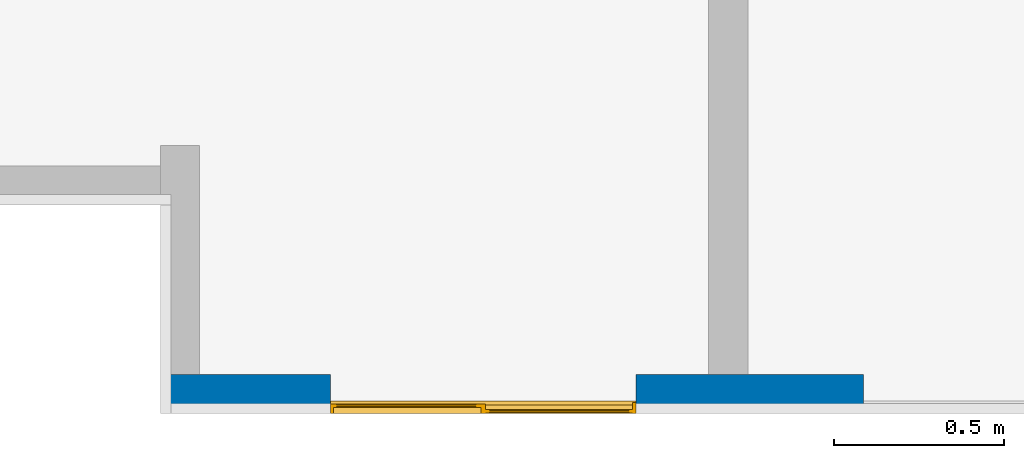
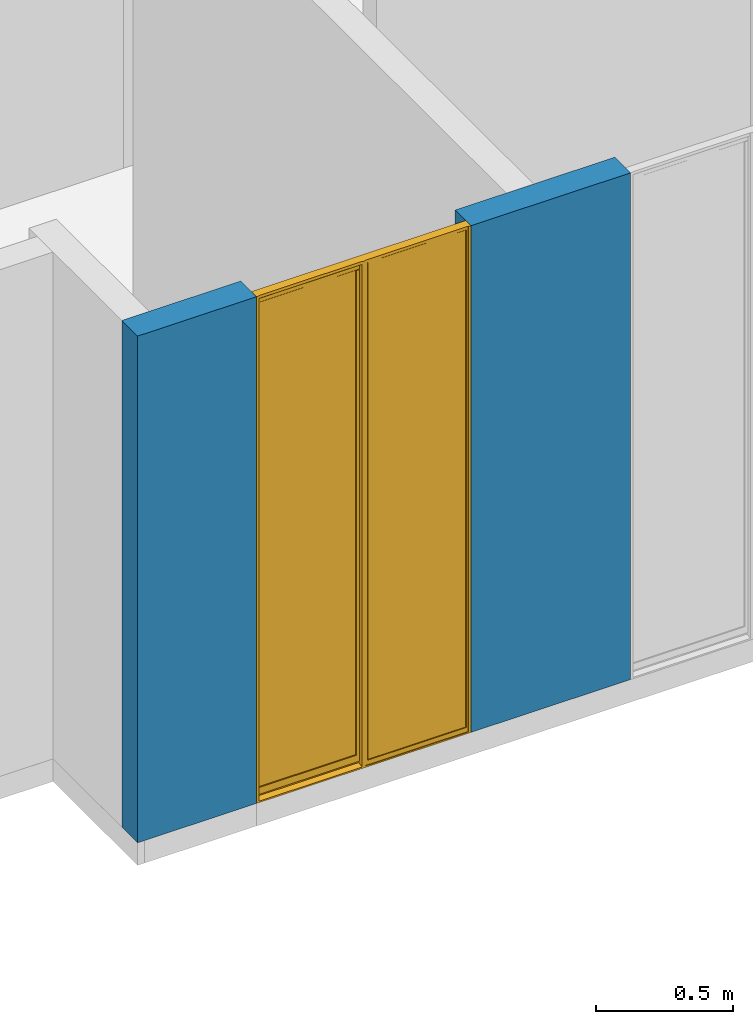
# One storey, part 11 of 48: 1 wall, 1 window, 2 openings.
"""IFC4 building model written with IfcOpenShell, lengths in metres."""

from ifc_helpers import new_model, entity, si_unit, converted_unit, derived_unit, direction, frame, origin, place, context, subcontext, project, spatial, indexed_curve, outline, extrude, polygons, source, transform, mapped, material, constituent, constituent_set, type_object, type_shapes, element, fill, save


model = new_model("IFC4")

# Units and contexts
model_context = context("Model", 3, precision=1e-05, world=origin(), true_north=direction((6.123031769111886e-17, 1.0)))
body_context = subcontext(model_context, "Body", "Model", "MODEL_VIEW")
ifc_project = project(units=[si_unit("LENGTHUNIT", "METRE"), si_unit("AREAUNIT", "SQUARE_METRE"), si_unit("VOLUMEUNIT", "CUBIC_METRE"), converted_unit("PLANEANGLEUNIT", "DEGREE", entity("IfcRatioMeasure", 0.017453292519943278), si_unit("PLANEANGLEUNIT", "RADIAN"), dimensions=[0, 0, 0, 0, 0, 0, 0]), si_unit("MASSUNIT", "GRAM", prefix="KILO"), derived_unit("MASSDENSITYUNIT", [(si_unit("MASSUNIT", "GRAM", prefix="KILO"), 1), (si_unit("LENGTHUNIT", "METRE"), -3)]), derived_unit("IONCONCENTRATIONUNIT", [(si_unit("MASSUNIT", "GRAM", prefix="KILO"), 1), (si_unit("LENGTHUNIT", "METRE"), -3)]), derived_unit("MOMENTOFINERTIAUNIT", [(si_unit("LENGTHUNIT", "METRE"), 4)]), si_unit("TIMEUNIT", "SECOND"), si_unit("FREQUENCYUNIT", "HERTZ"), si_unit("THERMODYNAMICTEMPERATUREUNIT", "DEGREE_CELSIUS"), derived_unit("THERMALTRANSMITTANCEUNIT", [(si_unit("MASSUNIT", "GRAM", prefix="KILO"), 1), (si_unit("THERMODYNAMICTEMPERATUREUNIT", "KELVIN"), -1), (si_unit("TIMEUNIT", "SECOND"), -3)]), derived_unit("THERMALCONDUCTANCEUNIT", [(si_unit("MASSUNIT", "GRAM", prefix="KILO"), 1), (si_unit("THERMODYNAMICTEMPERATUREUNIT", "KELVIN"), -1), (si_unit("TIMEUNIT", "SECOND"), -3), (si_unit("LENGTHUNIT", "METRE"), 1)]), derived_unit("VOLUMETRICFLOWRATEUNIT", [(si_unit("LENGTHUNIT", "METRE"), 3), (si_unit("TIMEUNIT", "SECOND"), -1)]), derived_unit("MASSFLOWRATEUNIT", [(si_unit("MASSUNIT", "GRAM", prefix="KILO"), 1), (si_unit("TIMEUNIT", "SECOND"), -1)]), derived_unit("ROTATIONALFREQUENCYUNIT", [(si_unit("TIMEUNIT", "SECOND"), -1)]), si_unit("ELECTRICCURRENTUNIT", "AMPERE"), si_unit("ELECTRICVOLTAGEUNIT", "VOLT"), si_unit("POWERUNIT", "WATT"), si_unit("FORCEUNIT", "NEWTON", prefix="KILO"), si_unit("ILLUMINANCEUNIT", "LUX"), si_unit("LUMINOUSFLUXUNIT", "LUMEN"), si_unit("LUMINOUSINTENSITYUNIT", "CANDELA"), derived_unit("USERDEFINED", [(si_unit("MASSUNIT", "GRAM", prefix="KILO"), -1), (si_unit("LENGTHUNIT", "METRE"), -2), (si_unit("TIMEUNIT", "SECOND"), 3), (si_unit("LUMINOUSFLUXUNIT", "LUMEN"), 1)]), derived_unit("USERDEFINED", [(si_unit("MASSUNIT", "GRAM", prefix="KILO"), 1), (si_unit("TIMEUNIT", "SECOND"), -3), (si_unit("LENGTHUNIT", "METRE"), 3), (si_unit("ELECTRICCURRENTUNIT", "AMPERE"), -2)]), derived_unit("SOUNDPOWERUNIT", [(si_unit("MASSUNIT", "GRAM", prefix="KILO"), 1), (si_unit("TIMEUNIT", "SECOND"), -3), (si_unit("LENGTHUNIT", "METRE"), 2)]), derived_unit("SOUNDPRESSUREUNIT", [(si_unit("MASSUNIT", "GRAM", prefix="KILO"), 1), (si_unit("LENGTHUNIT", "METRE"), -1), (si_unit("TIMEUNIT", "SECOND"), -2)]), derived_unit("LINEARVELOCITYUNIT", [(si_unit("LENGTHUNIT", "METRE"), 1), (si_unit("TIMEUNIT", "SECOND"), -1)]), si_unit("PRESSUREUNIT", "PASCAL"), derived_unit("USERDEFINED", [(si_unit("MASSUNIT", "GRAM", prefix="KILO"), 1), (si_unit("LENGTHUNIT", "METRE"), -2), (si_unit("TIMEUNIT", "SECOND"), -2)]), derived_unit("LINEARFORCEUNIT", [(si_unit("MASSUNIT", "GRAM", prefix="KILO"), 1), (si_unit("TIMEUNIT", "SECOND"), -2)]), derived_unit("PLANARFORCEUNIT", [(si_unit("MASSUNIT", "GRAM", prefix="KILO"), 1), (si_unit("LENGTHUNIT", "METRE"), -1), (si_unit("TIMEUNIT", "SECOND"), -2)]), derived_unit("SPECIFICHEATCAPACITYUNIT", [(si_unit("THERMODYNAMICTEMPERATUREUNIT", "KELVIN"), -1), (si_unit("LENGTHUNIT", "METRE"), 2), (si_unit("TIMEUNIT", "SECOND"), -2)]), derived_unit("HEATINGVALUEUNIT", [(si_unit("LENGTHUNIT", "METRE"), 2), (si_unit("TIMEUNIT", "SECOND"), -2)]), derived_unit("VAPORPERMEABILITYUNIT", [(si_unit("LENGTHUNIT", "METRE"), -1), (si_unit("TIMEUNIT", "SECOND"), 1)]), derived_unit("DYNAMICVISCOSITYUNIT", [(si_unit("MASSUNIT", "GRAM", prefix="KILO"), 1), (si_unit("TIMEUNIT", "SECOND"), -1), (si_unit("LENGTHUNIT", "METRE"), -1)]), derived_unit("THERMALEXPANSIONCOEFFICIENTUNIT", [(si_unit("THERMODYNAMICTEMPERATUREUNIT", "KELVIN"), -1)]), derived_unit("MODULUSOFELASTICITYUNIT", [(si_unit("MASSUNIT", "GRAM", prefix="KILO"), 1), (si_unit("LENGTHUNIT", "METRE"), -1), (si_unit("TIMEUNIT", "SECOND"), -2)]), derived_unit("ISOTHERMALMOISTURECAPACITYUNIT", [(si_unit("LENGTHUNIT", "METRE"), 3), (si_unit("MASSUNIT", "GRAM", prefix="KILO"), -1)]), derived_unit("MOISTUREDIFFUSIVITYUNIT", [(si_unit("TIMEUNIT", "SECOND"), -1), (si_unit("LENGTHUNIT", "METRE"), 2)])], contexts=[model_context])

# Site, building, storey
site_placement = place(None, origin())
site = spatial("IfcSite", under=ifc_project, at=site_placement, Name="Default", CompositionType="ELEMENT")
building_placement = place(site_placement, origin())
building = spatial("IfcBuilding", under=site, at=building_placement, CompositionType="ELEMENT")
storey_placement = place(building_placement, frame((0.0, 0.0, 9.40000000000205)))
storey = spatial("IfcBuildingStorey", under=building, at=storey_placement, Name="Nivel 5", CompositionType="ELEMENT", Elevation=9.40000000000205)

# Wall, openings, window
ifc_material_1 = material(Name="Ladrillo claro (Aire)", Category="Materials")
wall_type = type_object("IfcWallType", Name="Basic Wall:B2010 - 0.115m - Muro exterior en mampostería - Ladrillo", PredefinedType="STANDARD")
wall_placement = place(storey_placement, frame((12.462500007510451, -12.812500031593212, 0.0)))
wall = element("IfcWall", 1, at=wall_placement, inside=storey, type_object=wall_type, material=ifc_material_1, Name="Basic Wall:B2010 - 0.115m - Muro exterior en mampostería - Ladrillo", ObjectType="Basic Wall:B2010 - 0.115m - Muro exterior en mampostería - Ladrillo", PredefinedType="NOTDEFINED", context=body_context, shape_type="Tessellation", body=[
    polygons([(1.371029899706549e-16, -0.057499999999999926, 2.250000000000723), (1.371029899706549e-16, -0.057499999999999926, -1.0828671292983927e-15), (0.500000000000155, -0.057499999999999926, -1.0828671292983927e-15), (0.500000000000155, -0.057499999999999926, 2.250000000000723), (7.744918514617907e-16, 0.057499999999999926, -1.0828671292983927e-15), (0.11500000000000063, 0.057499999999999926, -1.0828671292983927e-15), (0.5000000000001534, 0.057499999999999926, -1.0828671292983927e-15), (7.744918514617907e-16, 0.057499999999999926, 2.250000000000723), (0.5000000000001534, 0.057499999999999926, 2.250000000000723), (0.11500000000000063, 0.057499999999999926, 2.250000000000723)], [[[1, 2, 3, 4]], [[2, 5, 6, 7, 3]], [[2, 1, 8, 5]], [[4, 3, 7, 9]], [[8, 1, 4, 9, 10]], [[5, 8, 10, 9, 7, 6]]], closed=True),
    polygons([(1.4000000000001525, 0.05750000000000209, -1.0828671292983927e-15), (1.4000000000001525, 0.05750000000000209, 2.250000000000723), (1.6149999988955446, 0.057499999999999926, 2.250000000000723), (1.7299999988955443, 0.05750000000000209, 2.250000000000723), (2.070799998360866, 0.05750000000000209, 2.250000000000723), (2.070799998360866, 0.05750000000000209, -1.0828671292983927e-15), (1.7299999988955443, 0.05750000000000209, -1.0828671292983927e-15), (1.6149999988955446, 0.057499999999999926, -1.0828671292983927e-15), (1.400000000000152, -0.057499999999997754, 2.250000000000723), (2.070799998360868, -0.057499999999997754, 2.250000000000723), (2.070799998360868, -0.057499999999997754, -1.0828671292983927e-15), (1.400000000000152, -0.057499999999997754, -1.0828671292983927e-15)], [[[1, 2, 3, 4, 5, 6, 7, 8]], [[2, 9, 10, 5, 4, 3]], [[10, 11, 6, 5]], [[12, 9, 2, 1]], [[12, 1, 8, 7, 6, 11]], [[9, 12, 11, 10]]], closed=True),
])
opening_1_placement = place(wall_placement, frame((0.5000000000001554, -0.057499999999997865, 0.0)))
opening_1 = element("IfcOpeningElement", 2, at=opening_1_placement, cuts=wall, Name="B2020 - Ventana corrediza 2C - Aluminio + Vidrio:B2020 - 0.90m x 2.25m - Ventana corrediza 2C - Aluminio + Vidrio:1", PredefinedType="OPENING", context=body_context, shape_type="SweptSolid", body=[
    extrude(outline(indexed_curve([(0.0, 0.899999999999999), (0.0, 3.610460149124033e-30), (2.2499999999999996, 3.610460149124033e-30), (2.249999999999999, 0.899999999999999), (0.0, 0.899999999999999)], self_intersect=False)), frame((0.0, 0.0, 0.0), z_axis=(0.0, 1.0, 0.0), x_axis=(0.0, 0.0, 1.0)), (0.0, 0.0, 1.0), 0.115),
])
opening_2_placement = place(wall_placement, frame((2.0707999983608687, -0.05749999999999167, 0.0)))
element("IfcOpeningElement", 3, at=opening_2_placement, cuts=wall, Name="B2020 - Ventana corrediza 2C - Aluminio + Vidrio:B2020 - 1.02m x 2.25m - Ventana corrediza 2C - Aluminio + Vidrio:1", PredefinedType="OPENING", context=body_context, shape_type="SweptSolid", body=[
    extrude(outline(indexed_curve([(0.0, 1.0199999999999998), (0.0, 7.3146984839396e-30), (2.2499999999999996, 7.3146984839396e-30), (2.249999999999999, 1.0199999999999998), (0.0, 1.0199999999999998)], self_intersect=False)), frame((0.0, 0.0, 0.0), z_axis=(0.0, 1.0, 0.0), x_axis=(0.0, 0.0, 1.0)), (0.0, 0.0, 1.0), 0.115),
])
ifc_material_2 = material(Name="Vidrio", Category="Materials")
ifc_constituent_1 = constituent(ifc_material_2, Name="Vidrio", Category="Materials")
ifc_material_3 = material(Name="<Unnamed>")
ifc_constituent_2 = constituent(ifc_material_3, Name="<Unnamed>")
ifc_constituent_set_1 = constituent_set(constituents=[ifc_constituent_1, ifc_constituent_2])
ifc_constituent_3 = constituent(ifc_material_2, Name="Vidrio", Category="Materials")
ifc_constituent_4 = constituent(ifc_material_3, Name="<Unnamed>")
ifc_constituent_set_2 = constituent_set(constituents=[ifc_constituent_3, ifc_constituent_4])
window_type = type_object("IfcWindowType", Name="B2020 - Ventana corrediza 2C - Aluminio + Vidrio:B2020 - 0.90m x 2.25m - Ventana corrediza 2C - Aluminio + Vidrio", PartitioningType="NOTDEFINED", PredefinedType="WINDOW", material=ifc_constituent_set_2)
shared_shape = source(origin(), body_context, "Body", "Tessellation", [
    polygons([(0.4298128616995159, 0.11062877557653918, 0.028641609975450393), (0.4298128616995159, 0.10552744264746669, 0.028641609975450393), (0.019967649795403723, 0.10552744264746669, 0.028641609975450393), (0.019967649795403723, 0.11062877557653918, 0.028641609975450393), (0.4298128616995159, 0.11062877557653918, 2.2347073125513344), (0.4298128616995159, 0.10552744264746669, 2.2347073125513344), (0.019967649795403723, 0.10552744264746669, 2.2347073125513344), (0.019967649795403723, 0.11062877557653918, 2.2347073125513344)], [[[1, 2, 3, 4]], [[5, 6, 2, 1]], [[6, 7, 3, 2]], [[7, 8, 4, 3]], [[8, 5, 1, 4]], [[5, 8, 7, 6]]], closed=True),
    polygons([(0.8811536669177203, 0.09380899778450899, 0.054189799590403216), (0.8811536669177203, 0.0895130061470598, 0.054189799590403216), (0.47172894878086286, 0.0895130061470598, 0.054189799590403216), (0.47172894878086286, 0.09380899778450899, 0.054189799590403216), (0.8811536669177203, 0.09380899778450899, 2.2043993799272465), (0.8811536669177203, 0.0895130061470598, 2.2043993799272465), (0.47172894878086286, 0.0895130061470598, 2.2043993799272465), (0.47172894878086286, 0.09380899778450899, 2.2043993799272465)], [[[1, 2, 3, 4]], [[5, 6, 2, 1]], [[6, 7, 3, 2]], [[7, 8, 4, 3]], [[8, 5, 1, 4]], [[5, 8, 7, 6]]], closed=True),
    polygons([(0.9, 0.07999999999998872, 0.020380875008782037), (0.9, 0.07999999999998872, -2.5718094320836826e-15), (0.9000000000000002, 0.1149999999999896, -2.5718094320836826e-15), (0.9, 0.1150000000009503, 2.2499999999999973), (0.9000000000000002, 0.07720993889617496, 2.2499999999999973), (0.9000000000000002, 0.07720993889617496, 2.2365872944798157), (0.9000000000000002, 0.07857307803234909, 2.2365872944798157), (0.9000000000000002, 0.07857307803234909, 2.24863686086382), (0.9, 0.08683610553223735, 2.24863686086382), (0.9, 0.08683610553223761, 0.017447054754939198), (0.9, 0.08124999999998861, 0.017447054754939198), (0.9, 0.08124999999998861, 0.02163087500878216), (0.9, 0.078577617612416, 0.02163087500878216), (0.9, 0.078577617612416, 0.025674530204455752), (0.9, 0.077327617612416, 0.025674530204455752), (0.9, 0.077327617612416, 0.020380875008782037), (1.353583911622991e-16, 0.07999999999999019, 0.020380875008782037), (1.353583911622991e-16, 0.07999999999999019, -2.5718094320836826e-15), (2.0303758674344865e-16, 0.11499999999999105, -2.5718094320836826e-15), (0.44335450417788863, 0.1149999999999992, 2.2499999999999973), (0.45664549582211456, 0.11499999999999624, 2.2499999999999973), (0.45664549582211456, 0.1149999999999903, 0.006176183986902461), (0.8901022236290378, 0.1149999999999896, 0.006176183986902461), (0.890102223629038, 0.1150000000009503, 2.2499999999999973), (1.353583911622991e-16, 0.1150000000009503, 2.2499999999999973), (0.009999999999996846, 0.11500000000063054, 2.2499999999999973), (0.009999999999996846, 0.11499999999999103, 0.006176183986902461), (0.44335450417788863, 0.11499999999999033, 0.006176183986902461), (0.883701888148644, 0.08683610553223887, 2.2069861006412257), (0.8837018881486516, 0.08683610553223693, 0.0519155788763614), (0.46918072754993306, 0.08683610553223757, 0.0519155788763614), (0.46918072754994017, 0.08683610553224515, 2.2043993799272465), (0.45664549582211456, 0.08683610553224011, 2.2043993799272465), (0.45664549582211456, 0.08683610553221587, 2.2069861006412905), (0.8837018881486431, 0.08683610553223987, 2.237270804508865), (0.45664549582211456, 0.08683610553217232, 2.237270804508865), (0.45664549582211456, 0.08683610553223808, 2.24863686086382), (0.4419528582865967, 0.08683610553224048, 2.24863686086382), (0.4419528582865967, 0.08683610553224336, 0.01744705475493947), (0.45664549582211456, 0.08683610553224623, 0.017447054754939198), (0.45664549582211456, 0.08683610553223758, 0.021630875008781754), (0.8962371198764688, 0.08683610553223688, 0.02163087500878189), (0.8962371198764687, 0.08683610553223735, 0.01744705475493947), (0.8837018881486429, 0.08683610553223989, 2.24863686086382), (1.353583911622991e-16, 0.08124999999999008, 0.017447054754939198), (0.8962371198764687, 0.09036136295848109, 0.017447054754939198), (0.45664549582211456, 0.09036136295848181, 0.017447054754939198), (0.4419528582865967, 0.09036136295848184, 0.017447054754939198), (0.009999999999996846, 0.09036136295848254, 0.017447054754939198), (0.009999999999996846, 0.08300000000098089, 0.017447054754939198), (2.0303758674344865e-16, 0.08300000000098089, 0.017447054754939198), (1.353583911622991e-16, 0.08124999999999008, 0.02163087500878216), (1.353583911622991e-16, 0.07857761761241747, 0.02163087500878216), (1.353583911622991e-16, 0.07857761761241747, 0.025674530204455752), (1.353583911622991e-16, 0.07732761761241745, 0.025674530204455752), (1.353583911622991e-16, 0.07732761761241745, 0.020380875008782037), (0.8811570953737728, 0.09380711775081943, 0.054191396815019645), (0.8837018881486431, 0.09648589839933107, 0.051915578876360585), (0.4691807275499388, 0.09648589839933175, 0.051915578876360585), (0.47172276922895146, 0.09380452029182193, 0.054191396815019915), (0.8837018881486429, 0.09648589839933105, 2.237270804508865), (0.8811536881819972, 0.09378706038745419, 2.237270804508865), (0.8811536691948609, 0.09378696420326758, 2.24863686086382), (0.8837018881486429, 0.09648589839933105, 2.24863686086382), (0.8837018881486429, 0.096485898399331, 2.2069861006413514), (0.45664549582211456, 0.09648589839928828, 2.2069861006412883), (0.45664549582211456, 0.09648589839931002, 2.237270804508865), (0.890102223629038, 0.09648589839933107, 2.24863686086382), (0.8901022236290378, 0.09648589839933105, 0.021630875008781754), (0.45664549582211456, 0.09648589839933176, 0.02163087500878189), (0.45664549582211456, 0.0964858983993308, 2.2043993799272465), (0.46918072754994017, 0.0964858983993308, 2.2043993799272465), (0.47172894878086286, 0.09379974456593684, 2.2043993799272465), (0.881159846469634, 0.08951748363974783, 0.05419139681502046), (0.47172552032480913, 0.08951488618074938, 0.054191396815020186), (0.8811537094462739, 0.08953496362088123, 2.237270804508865), (0.8811536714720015, 0.08953504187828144, 2.24863686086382), (0.47172894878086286, 0.08952215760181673, 2.204399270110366), (0.4419528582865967, 0.10334183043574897, 2.24863686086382), (0.4419528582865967, 0.10334183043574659, 0.014402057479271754), (0.4419528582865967, 0.09363692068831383, 0.014402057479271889), (0.4419528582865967, 0.09363692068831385, 0.010600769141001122), (0.4419528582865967, 0.09036136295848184, 0.011279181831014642), (0.45664549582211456, 0.11281438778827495, 2.2499999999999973), (0.45664549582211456, 0.11281438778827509, 2.2369062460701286), (0.45664549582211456, 0.11061545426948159, 2.2347073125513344), (0.45664549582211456, 0.10554076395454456, 2.2347073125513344), (0.45664549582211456, 0.10334183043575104, 2.2369062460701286), (0.45664549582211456, 0.10334183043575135, 2.24863686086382), (0.45664549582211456, 0.09380888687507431, 2.204399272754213), (0.45664549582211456, 0.09036136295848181, 0.011279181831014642), (0.8962371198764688, 0.09648589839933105, 0.02163087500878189), (0.8962371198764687, 0.09648589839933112, 0.010010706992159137), (0.8962371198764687, 0.09036136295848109, 0.011279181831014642), (0.890102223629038, 0.09648589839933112, 0.010010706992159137), (0.8901022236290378, 0.10334183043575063, 2.24863686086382), (0.890102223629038, 0.10334183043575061, 2.2369062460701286), (0.8901022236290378, 0.10554076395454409, 2.234707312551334), (0.8901022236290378, 0.11061545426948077, 2.234707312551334), (0.8901022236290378, 0.11281438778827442, 2.2369062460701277), (0.8901022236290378, 0.11281438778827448, 2.2499999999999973), (1.353583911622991e-16, 0.08300000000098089, 2.24863686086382), (1.353583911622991e-16, 0.07857307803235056, 2.24863686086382), (1.353583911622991e-16, 0.07857307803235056, 2.2365872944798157), (1.353583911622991e-16, 0.07720993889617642, 2.2365872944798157), (2.0303758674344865e-16, 0.07720993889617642, 2.2499999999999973), (0.009999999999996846, 0.08300000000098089, 2.24863686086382), (0.009999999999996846, 0.09036136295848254, 0.011279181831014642), (0.009999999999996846, 0.09363692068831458, 0.010600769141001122), (0.009999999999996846, 0.09363692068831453, 0.014402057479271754), (0.009999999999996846, 0.10334183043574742, 0.014402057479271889), (0.009999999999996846, 0.10334183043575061, 2.24863686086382), (0.44335450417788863, 0.11281438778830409, 0.006628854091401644), (0.44335450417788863, 0.112814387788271, 2.2499999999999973), (0.009999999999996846, 0.11281438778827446, 2.2499999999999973), (0.009999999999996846, 0.11281438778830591, 0.0066288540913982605), (0.4323610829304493, 0.11281438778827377, 0.026824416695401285), (0.42981286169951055, 0.1106287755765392, 0.028641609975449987), (0.4298128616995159, 0.1106287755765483, 2.2347139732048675), (0.43236108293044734, 0.112814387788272, 2.236906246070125), (0.01996764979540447, 0.11062877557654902, 0.028641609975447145), (0.01741942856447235, 0.11281438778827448, 0.026824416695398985), (0.01741942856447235, 0.11281438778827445, 2.236906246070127), (0.019967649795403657, 0.11062877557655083, 2.2347139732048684), (0.019967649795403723, 0.10552744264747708, 0.028641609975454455), (0.01741942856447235, 0.10334183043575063, 0.026824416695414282), (0.43236108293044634, 0.10334183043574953, 0.02682441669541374), (0.4298128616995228, 0.10552744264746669, 0.028641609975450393), (0.01996880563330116, 0.10553009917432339, 2.234711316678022), (0.017419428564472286, 0.10334183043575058, 2.2369062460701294), (0.432361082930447, 0.10334183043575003, 2.2369062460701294), (0.4298117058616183, 0.10553009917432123, 2.234711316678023), (0.8811537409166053, 0.09378737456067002, 2.2043889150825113), (0.8811555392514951, 0.08953032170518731, 2.2043931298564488), (0.45664549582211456, 0.08951317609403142, 2.204399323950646)], [[[1, 2, 3, 4, 5, 6, 7, 8, 9, 10, 11, 12, 13, 14, 15, 16]], [[17, 18, 2, 1]], [[2, 18, 19, 3]], [[20, 21, 22, 23, 24, 4, 3, 19, 25, 26, 27, 28]], [[35, 36, 37, 38, 39, 40, 41, 42, 43, 10, 9, 44], [29, 30, 31, 32, 33, 34]], [[45, 11, 10, 43, 46, 47, 40, 39, 48, 49, 50, 51]], [[45, 52, 12, 11]], [[52, 53, 13, 12]], [[53, 54, 14, 13]], [[54, 55, 15, 14]], [[55, 56, 16, 15]], [[56, 17, 1, 16]], [[57, 58, 59, 60]], [[61, 62, 63, 64]], [[58, 65, 66, 67, 61, 64, 68, 69, 70, 71, 72, 59]], [[72, 73, 60, 59]], [[74, 57, 60, 75]], [[62, 76, 77, 63]], [[60, 73, 78, 75]], [[30, 74, 75, 31]], [[76, 35, 44, 77]], [[78, 32, 31, 75]], [[48, 39, 38, 79, 80, 81, 82, 83]], [[22, 21, 84, 85, 86, 87, 88, 89, 37, 36, 67, 66, 90, 71, 70, 41, 40, 47, 91]], [[41, 70, 69, 92, 42]], [[92, 93, 94, 46, 43, 42]], [[69, 95, 93, 92]], [[24, 23, 95, 69, 68, 96, 97, 98, 99, 100, 101]], [[17, 56, 55, 54, 53, 52, 45, 51, 102, 103, 104, 105, 106, 25, 19, 18]], [[51, 50, 107, 102]], [[48, 83, 108, 49]], [[50, 49, 108, 109, 110, 111, 112, 107]], [[83, 82, 109, 108]], [[113, 114, 20, 28]], [[26, 115, 116, 27]], [[84, 101, 100, 85]], [[82, 81, 110, 109]], [[117, 118, 119, 120]], [[121, 122, 123, 124]], [[122, 121, 118, 117]], [[125, 126, 127, 128]], [[88, 97, 96, 89]], [[126, 125, 129, 130]], [[128, 127, 131, 132]], [[81, 80, 111, 110]], [[125, 121, 124, 129]], [[121, 125, 128, 118]], [[118, 128, 132, 119]], [[5, 4, 24, 101, 84, 21, 20, 114, 115, 26, 25, 106]], [[65, 133, 73, 90, 66]], [[133, 134, 78, 73]], [[134, 29, 34, 135, 78]], [[76, 62, 61, 67, 36, 35]], [[33, 32, 78, 135]], [[104, 103, 8, 7]], [[105, 104, 7, 6]], [[106, 105, 6, 5]], [[123, 120, 119, 124]], [[132, 129, 124, 119]], [[131, 130, 129, 132]], [[8, 103, 102, 107, 112, 79, 38, 37, 89, 96, 68, 64, 63, 77, 44, 9]], [[87, 98, 97, 88]], [[86, 99, 98, 87]], [[85, 100, 99, 86]], [[73, 72, 71, 90]], [[111, 80, 79, 112], [127, 126, 130, 131]], [[115, 114, 113, 116], [117, 120, 123, 122]], [[113, 28, 27, 116]], [[22, 91, 94, 93, 95, 23]], [[91, 47, 46, 94]], [[135, 34, 33]], [[74, 30, 29, 134]], [[57, 74, 134, 133]], [[58, 57, 133, 65]]], closed=True),
])
type_shapes(window_type, [shared_shape])
window_placement = place(opening_1_placement, frame((0.8999999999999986, 0.11500000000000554, 0.0), z_axis=(0.0, 0.0, 1.0), x_axis=(-1.0, 0.0, 0.0)))
window = element("IfcWindow", 4, at=window_placement, inside=storey, type_object=window_type, material=ifc_constituent_set_1, Name="B2020 - Ventana corrediza 2C - Aluminio + Vidrio:B2020 - 0.90m x 2.25m - Ventana corrediza 2C - Aluminio + Vidrio", ObjectType="B2020 - Ventana corrediza 2C - Aluminio + Vidrio:B2020 - 0.90m x 2.25m - Ventana corrediza 2C - Aluminio + Vidrio", OverallHeight=2.2499999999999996, OverallWidth=0.899999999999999, PartitioningType="NOTDEFINED", PredefinedType="WINDOW", context=body_context, shape_type="MappedRepresentation", body=[
    mapped(shared_shape, transform((0.0, 0.0, 0.0), scale=1.0)),
])
fill(opening_1, window)

save(model, "model.ifc")
